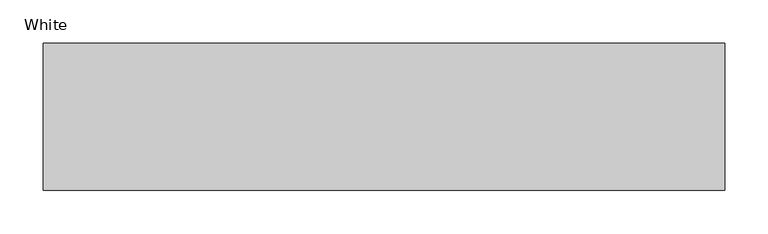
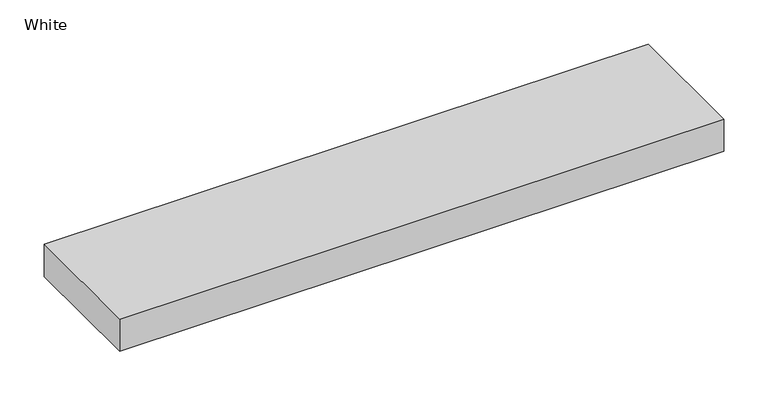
"""IFC4 building model written with IfcOpenShell, lengths in millimetres: proxy geometry, Raceway-5500_Series-Wiremold-Multi_Channel : White."""

import ifcopenshell
import ifcopenshell.guid

model = None  # the IFC model being written
_history = None  # IfcOwnerHistory: only IFC2X3 demands one
_inside = {}  # id of a spatial element -> (the spatial element, [elements in it])
_under = {}  # id of a project, library or spatial element -> (it, [spatial elements below it])
_declared = {}  # id of a project -> (the project, [libraries it declares])
_typed = {}  # id of a type object -> (the type object, [elements of that type])
_made_of = {}  # id of a material, layer set ... -> (it, [elements and type objects made of it])


def new_model(schema):
    """Start an empty IFC model of exactly this schema.

    Asked for "IFC4X3", IfcOpenShell would pick the latest addendum, in which some entities
    have other attributes; the version numbers below select the first issue.
    IFC2X3 requires an IfcOwnerHistory on every rooted entity: one is made here for all.
    """
    global model, _history
    if schema == "IFC4X3":
        model = ifcopenshell.file(schema_version=(4, 3, 0, 0))
    else:
        model = ifcopenshell.file(schema=schema)
    _inside.clear()
    _under.clear()
    _declared.clear()
    _typed.clear()
    _made_of.clear()
    _history = None
    if model.schema == "IFC2X3":
        org = make("IfcOrganization", Name="unknown")
        user = make(
            "IfcPersonAndOrganization",
            ThePerson=make("IfcPerson", FamilyName="unknown"),
            TheOrganization=org,
        )
        app = make(
            "IfcApplication",
            ApplicationDeveloper=org,
            Version="unknown",
            ApplicationFullName="unknown",
            ApplicationIdentifier="unknown",
        )
        _history = make(
            "IfcOwnerHistory",
            OwningUser=user,
            OwningApplication=app,
            ChangeAction="ADDED",
            CreationDate=0,
        )
    return model


def make(cls, **values):
    """One entity of the class cls with the attributes given. An attribute that is None is left unset."""
    return model.create_entity(
        cls, **{name: value for name, value in values.items() if value is not None}
    )


def rooted(cls, **values):
    """An entity with a GlobalId (a new one), such as an element, a storey or a relation."""
    return make(cls, GlobalId=ifcopenshell.guid.new(), OwnerHistory=_history, **values)


def si_unit(unit_type, name, prefix=None):
    """IfcSIUnit, for example si_unit("LENGTHUNIT", "METRE", prefix="MILLI")."""
    return make("IfcSIUnit", UnitType=unit_type, Prefix=prefix, Name=name)


def assignment(units):
    """IfcUnitAssignment: the units of a project."""
    return None if units is None else make("IfcUnitAssignment", Units=units)


def point(xyz):
    """IfcCartesianPoint."""
    return None if xyz is None else make("IfcCartesianPoint", Coordinates=xyz)


def direction(xyz):
    """IfcDirection."""
    return None if xyz is None else make("IfcDirection", DirectionRatios=xyz)


def frame(location, z_axis=None, x_axis=None):
    """IfcAxis2Placement3D, a coordinate frame: its origin and axes. An axis left out is left unset."""
    return make(
        "IfcAxis2Placement3D",
        Location=point(location),
        Axis=direction(z_axis),
        RefDirection=direction(x_axis),
    )


def origin():
    """The frame at (0, 0, 0) with its axes left unset."""
    return frame((0.0, 0.0, 0.0))


def origin_with_axes():
    """The frame at (0, 0, 0) with the z axis (0, 0, 1) and the x axis (1, 0, 0) written out."""
    return frame((0.0, 0.0, 0.0), z_axis=(0.0, 0.0, 1.0), x_axis=(1.0, 0.0, 0.0))


def place(relative_to, where):
    """IfcLocalPlacement: puts the frame where relative to a parent placement (None: the world)."""
    return make(
        "IfcLocalPlacement", PlacementRelTo=relative_to, RelativePlacement=where
    )


def context(
    kind, dimensions, precision=None, world=None, true_north=None, identifier=None
):
    """IfcGeometricRepresentationContext, for example the 3D "Model" context."""
    return make(
        "IfcGeometricRepresentationContext",
        ContextIdentifier=identifier,
        ContextType=kind,
        CoordinateSpaceDimension=dimensions,
        Precision=precision,
        WorldCoordinateSystem=world,
        TrueNorth=true_north,
    )


def project(units=None, contexts=None):
    """IfcProject with its units and contexts."""
    return rooted(
        "IfcProject",
        Name="project",
        RepresentationContexts=contexts,
        UnitsInContext=assignment(units),
    )


def spatial(cls, under=None, at=None, **own):
    """A site, building, storey or space (cls), placed at a placement, below another one or the project."""
    s = rooted(cls, ObjectPlacement=at, **own)
    if under is not None:
        _under.setdefault(under.id(), (under, []))[1].append(s)
    return s


def polyline(points):
    """IfcPolyline through the points."""
    return make("IfcPolyline", Points=[point(p) for p in points])


def outline(outer, holes=None, kind="AREA"):
    """IfcArbitraryClosedProfileDef: a profile drawn as a closed curve; with holes, ...WithVoids."""
    if holes is None:
        return make("IfcArbitraryClosedProfileDef", ProfileType=kind, OuterCurve=outer)
    return make(
        "IfcArbitraryProfileDefWithVoids",
        ProfileType=kind,
        OuterCurve=outer,
        InnerCurves=holes,
    )


def extrude(swept, where, along, depth):
    """IfcExtrudedAreaSolid: the profile swept, set in the frame where, extruded along a direction by depth."""
    return make(
        "IfcExtrudedAreaSolid",
        SweptArea=swept,
        Position=where,
        ExtrudedDirection=direction(along),
        Depth=depth,
    )


def shape(context_of_items, identifier, shape_type, items):
    """IfcShapeRepresentation: the items that make up one representation, for example the "Body"."""
    return make(
        "IfcShapeRepresentation",
        ContextOfItems=context_of_items,
        RepresentationIdentifier=identifier,
        RepresentationType=shape_type,
        Items=items,
    )


def source(mapping_origin, context_of_items, identifier, shape_type, items):
    """IfcRepresentationMap: a shape defined once, which mapped items show again and again."""
    return make(
        "IfcRepresentationMap",
        MappingOrigin=mapping_origin,
        MappedRepresentation=shape(context_of_items, identifier, shape_type, items),
    )


def transform(
    local_origin,
    x_axis=None,
    y_axis=None,
    z_axis=None,
    scale=None,
    scale2=None,
    scale3=None,
    uniform=True,
):
    """IfcCartesianTransformationOperator3D, or its non-uniform kind. x_axis, y_axis, z_axis: its Axis1, 2, 3."""
    if uniform:
        return make(
            "IfcCartesianTransformationOperator3D",
            Axis1=direction(x_axis),
            Axis2=direction(y_axis),
            LocalOrigin=point(local_origin),
            Scale=scale,
            Axis3=direction(z_axis),
        )
    return make(
        "IfcCartesianTransformationOperator3DnonUniform",
        Axis1=direction(x_axis),
        Axis2=direction(y_axis),
        LocalOrigin=point(local_origin),
        Scale=scale,
        Axis3=direction(z_axis),
        Scale2=scale2,
        Scale3=scale3,
    )


def mapped(mapping_source, mapping_target):
    """IfcMappedItem: shows the shape of a source again, moved by a transform."""
    return make(
        "IfcMappedItem", MappingSource=mapping_source, MappingTarget=mapping_target
    )


def made_of(thing, what):
    """Note that an element or type object is made of a material, layer set ...; save() writes the relation."""
    if what is not None:
        _made_of.setdefault(what.id(), (what, []))[1].append(thing)
    return thing


def element(
    cls,
    number,
    at=None,
    inside=None,
    cuts=None,
    type_object=None,
    material=None,
    context=None,
    identifier="Body",
    shape_type=None,
    held_by="IfcProductDefinitionShape",
    body=None,
    shapes=None,
    **own,
):
    """One element of the class cls, such as IfcWall. Its Tag is "e" and its number.

    at: its placement. inside: the storey or other place that contains it. cuts: it is an
    opening in that element (IfcRelVoidsElement). A single representation is given by context,
    identifier, shape_type and body (its items); several are given by shapes. held_by: the class
    of the entity that holds the representations. save() writes the other relations.
    """
    e = rooted(cls, Tag="e%d" % number, ObjectPlacement=at, **own)
    if body is not None:
        shapes = [shape(context, identifier, shape_type, body)]
    if shapes is not None:
        e.Representation = make(held_by, Representations=shapes)
    if inside is not None:
        _inside.setdefault(inside.id(), (inside, []))[1].append(e)
    if cuts is not None:
        rooted(
            "IfcRelVoidsElement", RelatingBuildingElement=cuts, RelatedOpeningElement=e
        )
    if type_object is not None:
        _typed.setdefault(type_object.id(), (type_object, []))[1].append(e)
    return made_of(e, material)


def aggregate(whole, parts):
    """IfcRelAggregates: a whole, such as a stair, and the parts it consists of."""
    return rooted("IfcRelAggregates", RelatingObject=whole, RelatedObjects=parts)


def save(model, path):
    """Write the relations noted so far, then the file.

    IfcRelAggregates (storeys below a building ...), IfcRelContainedInSpatialStructure (elements
    in a storey), IfcRelDefinesByType, IfcRelAssociatesMaterial and IfcRelDeclares: one each for
    every whole, place, type object, material and project.
    """
    for whole, parts in _under.values():
        aggregate(whole, parts)
    for where, things in _inside.values():
        rooted(
            "IfcRelContainedInSpatialStructure",
            RelatedElements=things,
            RelatingStructure=where,
        )
    for kind, things in _typed.values():
        rooted("IfcRelDefinesByType", RelatedObjects=things, RelatingType=kind)
    for what, things in _made_of.values():
        rooted("IfcRelAssociatesMaterial", RelatedObjects=things, RelatingMaterial=what)
    for by, libraries in _declared.values():
        rooted("IfcRelDeclares", RelatingContext=by, RelatedDefinitions=libraries)
    model.write(path)


def white_85fdcce9(model_context):
    return source(origin(), model_context, "Body", "SweptSolid", [
        extrude(outline(polyline([(787.4, 84.9376), (787.4, -84.9376), (0.0, -84.9376), (0.0, 84.9376), (787.4, 84.9376)])), origin_with_axes(), (0.0, 0.0, 1.0), 44.45),
    ])


if __name__ == "__main__":
    model = new_model("IFC4")
    model_context = context("Model", 3, world=origin())
    ifc_project = project(units=[si_unit("LENGTHUNIT", "METRE", prefix="MILLI")], contexts=[model_context])
    site = spatial("IfcSite", under=ifc_project)
    building = spatial("IfcBuilding", under=site)
    placement = place(None, origin())
    white_shape = white_85fdcce9(model_context)
    element("IfcBuildingElementProxy", 1, Name="Raceway-5500_Series-Wiremold-Multi_Channel : White", ObjectType="Raceway-5500_Series-Wiremold-Multi_Channel : White", at=placement, inside=building, context=model_context, shape_type="MappedRepresentation", body=[
        mapped(white_shape, transform((0.0, 0.0, 0.0), x_axis=(1.0, 0.0, 0.0), y_axis=(0.0, 1.0, 0.0), z_axis=(0.0, 0.0, 1.0))),
    ])
    save(model, "model.ifc")
